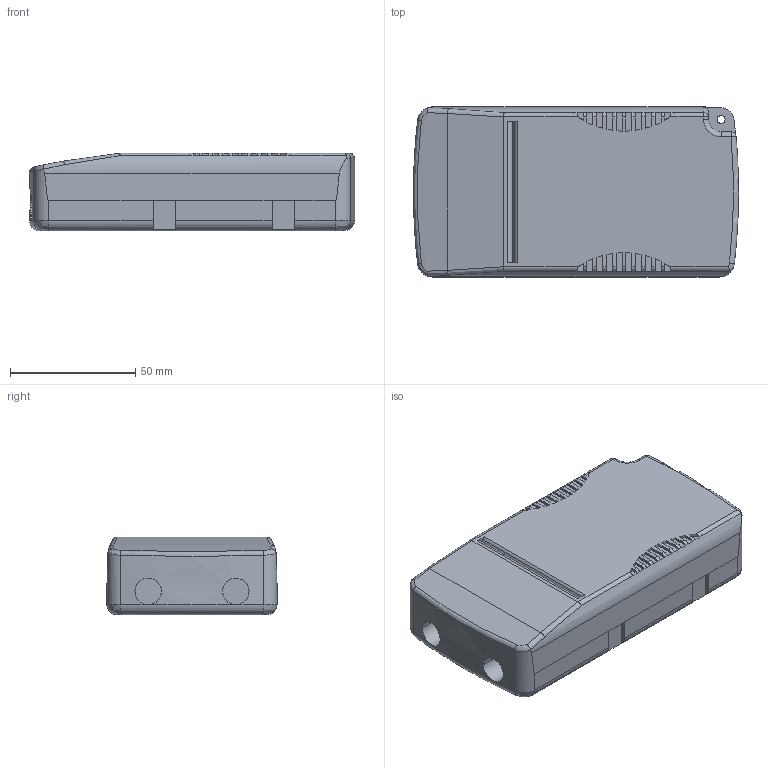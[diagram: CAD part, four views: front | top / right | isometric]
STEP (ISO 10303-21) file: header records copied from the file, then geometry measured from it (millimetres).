
FILE_DESCRIPTION((''),'2;1');
FILE_NAME('15011007','2017-05-16T',('elon.guo'),(''),'PRO/ENGINEER BY PARAMETRIC TECHNOLOGY CORPORATION, 2015200','PRO/ENGINEER BY PARAMETRIC TECHNOLOGY CORPORATION, 2015200','');
FILE_SCHEMA(('AUTOMOTIVE_DESIGN { 1 0 10303 214 1 1 1 1 }'));
Length unit declared in the file: millimetre
Products named in the file (1): 15011007
Bounding box: 130 x 68 x 31 mm (x, y, z)
Volume: 254933.2 mm3; surface area: 28598.7 mm2
Topology: 1 solids, 1 shells, 200 faces, 572 edges, 373 vertices
Faces by surface type: plane 109, cylinder 71, bspline 12, torus 6, sphere 2
Entity records: 9670 total; most frequent: CARTESIAN_POINT 1882, ORIENTED_EDGE 1140, DIRECTION 1092, PRESENTATION_STYLE_ASSIGNMENT 614, STYLED_ITEM 571, CURVE_STYLE 570, EDGE_CURVE 570, AXIS2_PLACEMENT_3D 396
